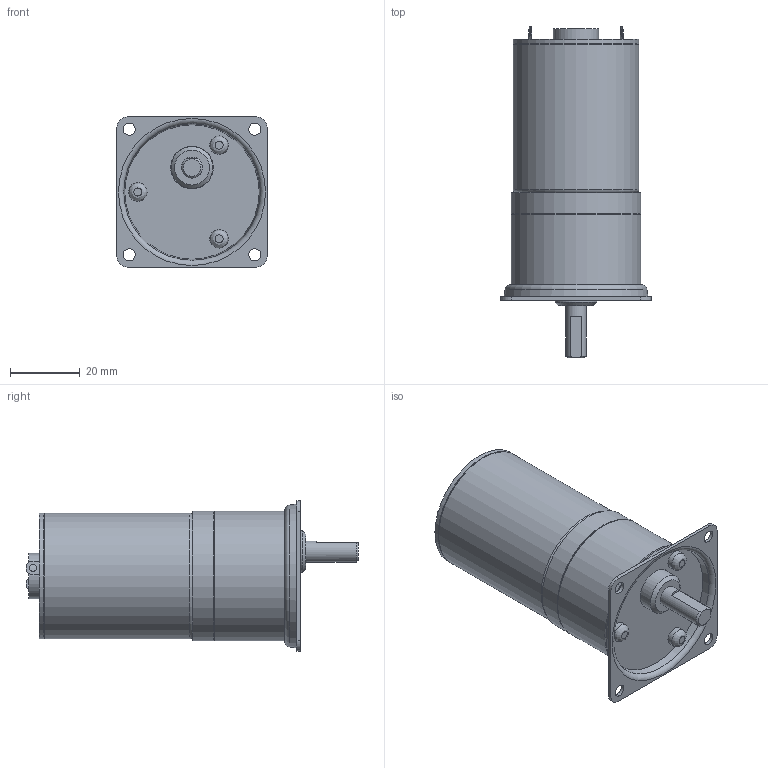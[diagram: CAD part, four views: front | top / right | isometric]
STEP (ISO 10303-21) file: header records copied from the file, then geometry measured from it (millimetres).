
FILE_DESCRIPTION((''),'2;1');
FILE_NAME('C:\Documents and Settings\SSEGAWA\デスクトップ\TP-3644D-PHM-3.STP','2013-07-25T17:52:47',('SSEGAWA'),(''),'Autodesk Inventor 2010','Autodesk Inventor 2010','');
FILE_SCHEMA(('CONFIG_CONTROL_DESIGN'));
Length unit declared in the file: millimetre
Products named in the file (1): tp_3644dh_phm-3_Shrinkwrap_1
Bounding box: 43 x 95.1 x 43 mm (x, y, z)
Volume: 76387.8 mm3; surface area: 14447.2 mm2
Topology: 1 solids, 9 shells, 97 faces, 203 edges, 136 vertices
Faces by surface type: plane 42, cylinder 25, bspline 23, cone 4, torus 3
Full cylindrical faces by diameter (mm): 3 x1, 3.5 x1, 5.3 x3, 6 x1, 12 x1, 12.2 x1, 13 x1, 35.6 x1, 36 x2, 36.6 x1, 37 x2
Entity records: 2693 total; most frequent: CARTESIAN_POINT 819, DIRECTION 371, ORIENTED_EDGE 268, EDGE_LOOP 165, AXIS2_PLACEMENT_3D 164, EDGE_CURVE 134, VERTEX_POINT 111, STYLED_ITEM 98
